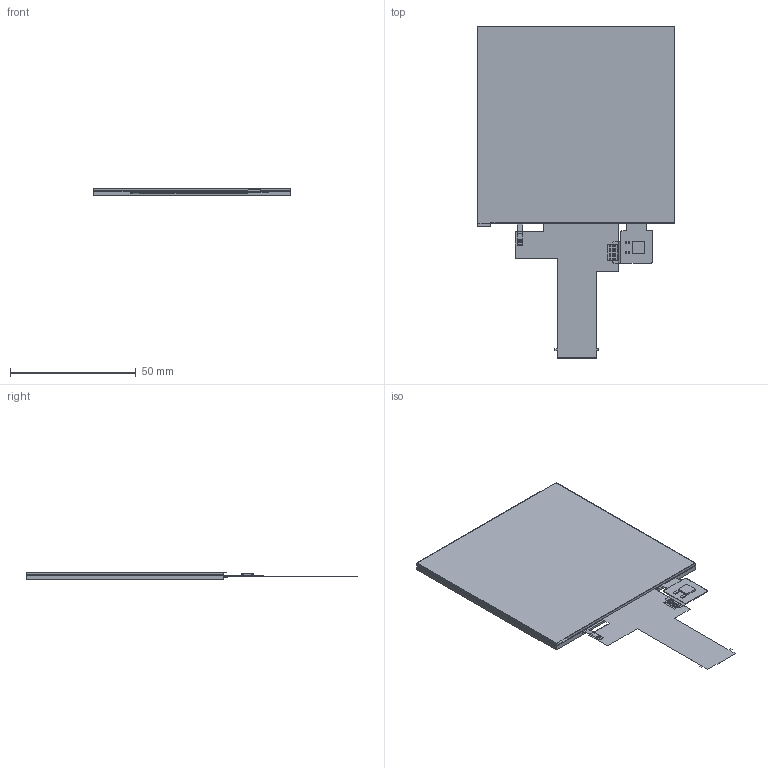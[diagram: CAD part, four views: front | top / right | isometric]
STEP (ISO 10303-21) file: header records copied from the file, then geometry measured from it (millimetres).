
FILE_DESCRIPTION(('FreeCAD Model'),'2;1');
FILE_NAME('Open CASCADE Shape Model','2026-06-25T11:54:06',(''),(''), 'Open CASCADE STEP processor 7.8','FreeCAD','Unknown');
FILE_SCHEMA(('AUTOMOTIVE_DESIGN { 1 0 10303 214 1 1 1 1 }'));
Length unit declared in the file: millimetre
Products named in the file (1): Body
Bounding box: 78.3 x 131.8 x 3.15 mm (x, y, z)
Volume: 17417.8 mm3; surface area: 49501.1 mm2
Topology: 1 solids, 2 shells, 207 faces, 553 edges, 356 vertices
Faces by surface type: plane 185, cylinder 20, bspline 2
Entity records: 6533 total; most frequent: CARTESIAN_POINT 1331, ORIENTED_EDGE 1106, DIRECTION 1001, EDGE_CURVE 553, LINE 501, VECTOR 501, VERTEX_POINT 356, AXIS2_PLACEMENT_3D 250
